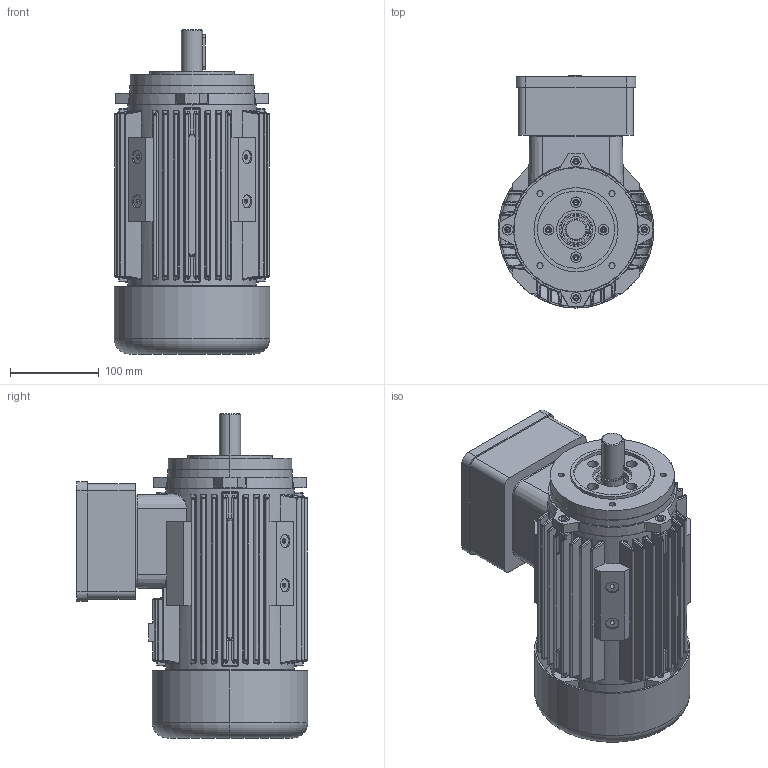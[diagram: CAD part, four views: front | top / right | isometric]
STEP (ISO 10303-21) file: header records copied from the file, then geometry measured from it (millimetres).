
FILE_DESCRIPTION (( 'STEP AP214' ), '1' );
FILE_NAME ('20.18364-C 7AZ 90 B14 small STANDK.STEP', '2018-04-09T12:48:11', ( '' ), ( '' ), 'SwSTEP 2.0', 'SolidWorks 2017', '' );
FILE_SCHEMA (( 'AUTOMOTIVE_DESIGN' ));
Length unit declared in the file: millimetre
Products named in the file (1): 20.18364-C 7AZ 90 B14 small STANDK
Bounding box: 176 x 261.8 x 366 mm (x, y, z)
Volume: 2481951.9 mm3; surface area: 823666 mm2
Topology: 10 solids, 10 shells, 2334 faces, 5719 edges, 3341 vertices
Faces by surface type: cylinder 814, bspline 729, plane 560, torus 105, cone 100, sphere 26
Entity records: 120850 total; most frequent: CARTESIAN_POINT 47232, ORIENTED_EDGE 11078, DIRECTION 9051, EDGE_CURVE 5539, AXIS2_PLACEMENT_3D 3517, VERTEX_POINT 3341, EDGE_LOOP 2530, FACE_OUTER_BOUND 2334
